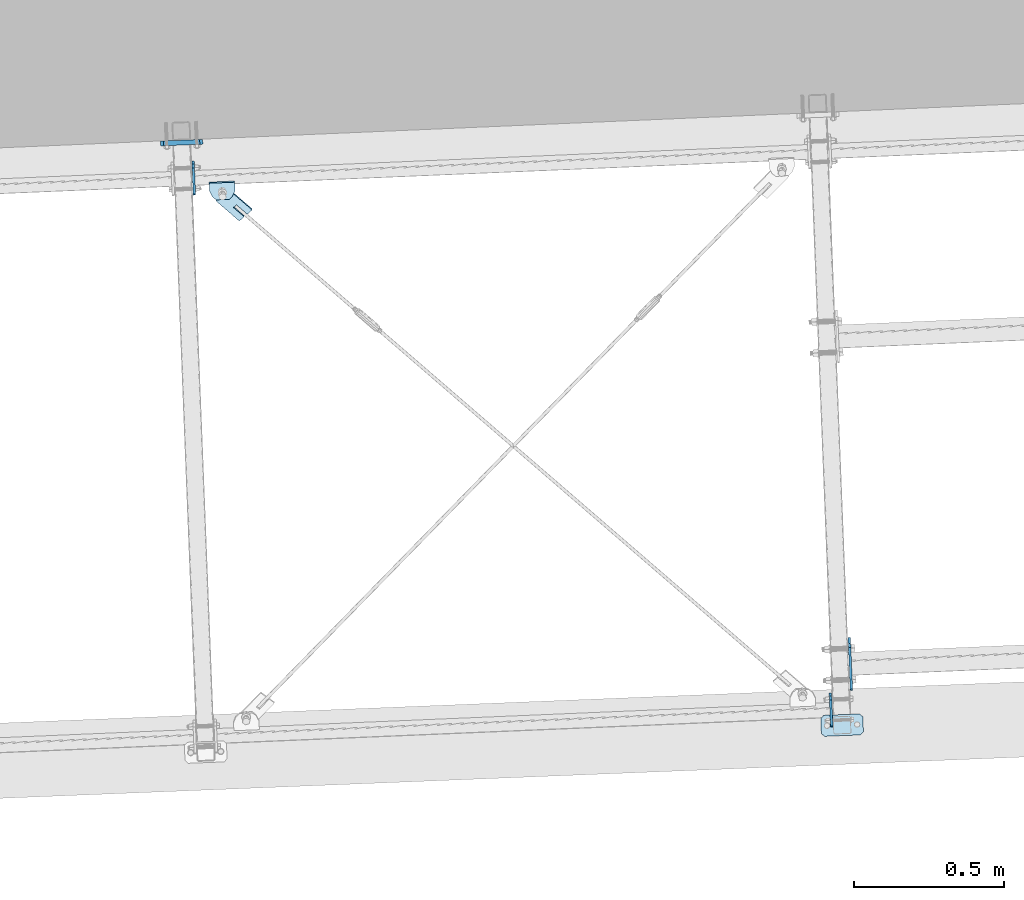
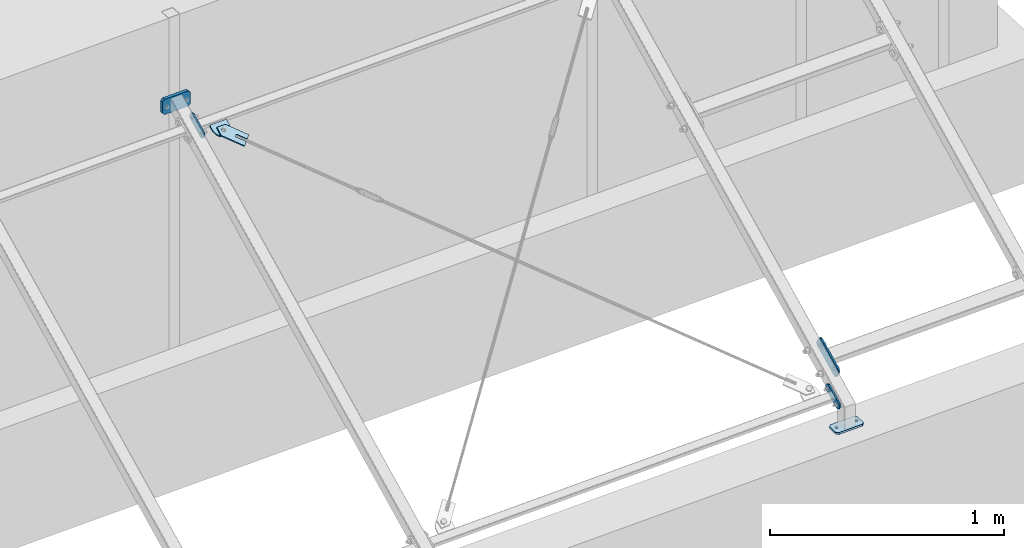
# One storey, part 64 of 288: 7 plates, 40 openings.
"""IFC2X3 building model written with IfcOpenShell, lengths in millimetres."""

from ifc_helpers import new_model, entity, si_unit, converted_unit, point, frame, frame_2d, origin, origin_with_axes, origin_2d_with_axis, place, context, project, spatial, polyline, circle_curve, line_curve, trimmed, segment, composite_curve, circle, outline, extrude, material, layer, layer_set, element, save


model = new_model("IFC2X3")

# Units and contexts
model_context = context("Model", 3, precision=1e-09, world=origin_with_axes())
ifc_project = project(units=[si_unit("LENGTHUNIT", "METRE", prefix="MILLI"), si_unit("AREAUNIT", "SQUARE_METRE"), si_unit("VOLUMEUNIT", "CUBIC_METRE"), converted_unit("PLANEANGLEUNIT", "DEGREE", entity("IfcPlaneAngleMeasure", 0.01745329), si_unit("PLANEANGLEUNIT", "RADIAN"), dimensions=[0, 0, 0, 0, 0, 0, 0])], contexts=[model_context])

# Site, building, storey
site_placement = place(None, origin_with_axes())
site = spatial("IfcSite", under=ifc_project, at=site_placement, Name="Remont ?wietlik?w nad MC w NCPP w Opolu", CompositionType="ELEMENT")
building_placement = place(site_placement, origin_with_axes())
building = spatial("IfcBuilding", under=site, at=building_placement, Name="Konstrukcja 1", CompositionType="ELEMENT")
storey_placement = place(building_placement, origin_with_axes())
storey = spatial("IfcBuildingStorey", under=building, at=storey_placement, Name="Default Storey", CompositionType="ELEMENT", Elevation=0.0)

# Plate, openings
ifc_material = material(Name="S235")
ifc_layer_1 = layer(ifc_material, 8.0)
ifc_layer_set_1 = layer_set([ifc_layer_1], Name="S235")
plate_1_placement = place(None, frame((8745.083732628, 13898.774885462, 91.514813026), z_axis=(-0.999102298, -0.042361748, 0.000284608), x_axis=(0.021561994, -0.502733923, 0.864172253)))
plate_1 = element("IfcPlate", 1, at=plate_1_placement, inside=storey, material=ifc_layer_set_1, Name="-", ObjectType="-", context=model_context, shape_type="SweptSolid", body=[
    extrude(outline(polyline([(0.0, 0.0), (40.0, 0.0), (40.0, 120.0), (0.0, 120.0), (0.0, 0.0)])), origin_with_axes(), (0.0, 0.0, 1.0), 8.0),
])
opening_1_placement = place(plate_1_placement, frame((12.999, 100.0, 8.5), z_axis=(0.0, 0.0, 1.0), x_axis=(1.0, 0.0, 0.0)))
element("IfcOpeningElement", 2, at=opening_1_placement, cuts=plate_1, ObjectType="Opening", context=model_context, shape_type="SweptSolid", body=[
    extrude(circle(Radius=7.001, at=frame_2d((7.001, 0.0), x_axis=(1.0, 0.0))), origin(), (0.0, 0.0, -1.0), 9.0),
])
opening_2_placement = place(plate_1_placement, frame((12.999, 20.0, 8.5), z_axis=(0.0, 0.0, 1.0), x_axis=(1.0, 0.0, 0.0)))
element("IfcOpeningElement", 3, at=opening_2_placement, cuts=plate_1, ObjectType="Opening", context=model_context, shape_type="SweptSolid", body=[
    extrude(circle(Radius=7.001, at=frame_2d((7.001, 0.0), x_axis=(1.0, 0.0))), origin(), (0.0, 0.0, -1.0), 9.0),
])
opening_3_placement = place(plate_1_placement, frame((0.0, 0.0, -0.01), z_axis=(0.0, 0.0, 1.0), x_axis=(1.0, 0.0, 0.0)))
element("IfcOpeningElement", 4, at=opening_3_placement, cuts=plate_1, ObjectType="Opening", context=model_context, shape_type="SweptSolid", body=[
    extrude(outline(composite_curve([segment(trimmed(line_curve((40.0, 0.0), (0.0, 1.0), 10.0), [point((40.0, 0.0))], [point((40.0, 10.0))], True, "CARTESIAN"), True, "CONTINUOUS"), segment(trimmed(circle_curve(frame_2d((30.0, 10.0), x_axis=(-1.0, 0.0)), 10.0), [point((40.0, 10.0))], [point((30.0, 0.0))], False, "CARTESIAN"), True, "CONTINUOUS"), segment(trimmed(line_curve((30.0, 0.0), (1.0, 0.0), 10.0), [point((30.0, 0.0))], [point((40.0, 0.0))], True, "CARTESIAN"), True, "CONTINUOUS")], self_intersect=False)), origin(), (0.0, 0.0, 1.0), 8.02),
])
opening_4_placement = place(plate_1_placement, frame((0.0, 0.0, -0.01), z_axis=(0.0, 0.0, 1.0), x_axis=(1.0, 0.0, 0.0)))
element("IfcOpeningElement", 5, at=opening_4_placement, cuts=plate_1, ObjectType="Opening", context=model_context, shape_type="SweptSolid", body=[
    extrude(outline(composite_curve([segment(trimmed(line_curve((0.0, 0.0), (1.0, 0.0), 10.0), [point((0.0, 0.0))], [point((10.0, 0.0))], True, "CARTESIAN"), True, "CONTINUOUS"), segment(trimmed(circle_curve(frame_2d((10.0, 10.0), x_axis=(-1.0, 0.0)), 10.0), [point((10.0, 0.0))], [point((0.0, 10.0))], False, "CARTESIAN"), True, "CONTINUOUS"), segment(trimmed(line_curve((0.0, 10.0), (0.0, -1.0), 10.0), [point((0.0, 10.0))], [point((0.0, 0.0))], True, "CARTESIAN"), True, "CONTINUOUS")], self_intersect=False)), origin(), (0.0, 0.0, 1.0), 8.02),
])
opening_5_placement = place(plate_1_placement, frame((0.0, 0.0, -0.01), z_axis=(0.0, 0.0, 1.0), x_axis=(1.0, 0.0, 0.0)))
element("IfcOpeningElement", 6, at=opening_5_placement, cuts=plate_1, ObjectType="Opening", context=model_context, shape_type="SweptSolid", body=[
    extrude(outline(composite_curve([segment(trimmed(line_curve((40.0, 120.0), (-1.0, 0.0), 10.0), [point((40.0, 120.0))], [point((30.0, 120.0))], True, "CARTESIAN"), True, "CONTINUOUS"), segment(trimmed(circle_curve(frame_2d((30.0, 110.0), x_axis=(-1.0, 0.0)), 10.0), [point((30.0, 120.0))], [point((40.0, 110.0))], False, "CARTESIAN"), True, "CONTINUOUS"), segment(trimmed(line_curve((40.0, 110.0), (0.0, 1.0), 10.0), [point((40.0, 110.0))], [point((40.0, 120.0))], True, "CARTESIAN"), True, "CONTINUOUS")], self_intersect=False)), origin(), (0.0, 0.0, 1.0), 8.02),
])
opening_6_placement = place(plate_1_placement, frame((0.0, 0.0, -0.01), z_axis=(0.0, 0.0, 1.0), x_axis=(1.0, 0.0, 0.0)))
element("IfcOpeningElement", 7, at=opening_6_placement, cuts=plate_1, ObjectType="Opening", context=model_context, shape_type="SweptSolid", body=[
    extrude(outline(composite_curve([segment(trimmed(line_curve((0.0, 120.0), (0.0, -1.0), 10.0), [point((0.0, 120.0))], [point((0.0, 110.0))], True, "CARTESIAN"), True, "CONTINUOUS"), segment(trimmed(circle_curve(frame_2d((10.0, 110.0), x_axis=(-1.0, 0.0)), 10.0), [point((0.0, 110.0))], [point((10.0, 120.0))], False, "CARTESIAN"), True, "CONTINUOUS"), segment(trimmed(line_curve((10.0, 120.0), (-1.0, 0.0), 10.0), [point((10.0, 120.0))], [point((0.0, 120.0))], True, "CARTESIAN"), True, "CONTINUOUS")], self_intersect=False)), origin(), (0.0, 0.0, 1.0), 8.02),
])
opening_7_placement = place(plate_1_placement, frame((12.999, 100.0, 8.5), z_axis=(0.0, 0.0, 1.0), x_axis=(1.0, 0.0, 0.0)))
element("IfcOpeningElement", 8, at=opening_7_placement, cuts=plate_1, ObjectType="Opening", context=model_context, shape_type="SweptSolid", body=[
    extrude(circle(Radius=7.001, at=frame_2d((7.001, 0.0), x_axis=(1.0, 0.0))), origin(), (0.0, 0.0, -1.0), 9.0),
])
opening_8_placement = place(plate_1_placement, frame((12.999, 20.0, 8.5), z_axis=(0.0, 0.0, 1.0), x_axis=(1.0, 0.0, 0.0)))
element("IfcOpeningElement", 9, at=opening_8_placement, cuts=plate_1, ObjectType="Opening", context=model_context, shape_type="SweptSolid", body=[
    extrude(circle(Radius=7.001, at=frame_2d((7.001, 0.0), x_axis=(1.0, 0.0))), origin(), (0.0, 0.0, -1.0), 9.0),
])

plate_2_placement = place(None, frame((8810.055329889, 14031.171699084, 157.587113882), z_axis=(-0.999102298, -0.042361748, 0.000284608), x_axis=(0.021561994, -0.502733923, 0.864172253)))
plate_2 = element("IfcPlate", 10, at=plate_2_placement, inside=storey, material=ifc_layer_set_1, Name="-", ObjectType="-", context=model_context, shape_type="SweptSolid", body=[
    extrude(outline(polyline([(0.0, 0.0), (60.0, 0.0), (60.0, 180.0), (0.0, 180.0), (0.0, 0.0)])), origin_with_axes(), (0.0, 0.0, 1.0), 8.0),
])
opening_9_placement = place(plate_2_placement, frame((0.0, 0.0, -0.01), z_axis=(0.0, 0.0, 1.0), x_axis=(1.0, 0.0, 0.0)))
element("IfcOpeningElement", 11, at=opening_9_placement, cuts=plate_2, ObjectType="Opening", context=model_context, shape_type="SweptSolid", body=[
    extrude(outline(composite_curve([segment(trimmed(line_curve((60.0, 0.0), (0.0, 1.0), 10.0), [point((60.0, 0.0))], [point((60.0, 10.0))], True, "CARTESIAN"), True, "CONTINUOUS"), segment(trimmed(circle_curve(frame_2d((50.0, 10.0), x_axis=(-1.0, 0.0)), 10.0), [point((60.0, 10.0))], [point((50.0, 0.0))], False, "CARTESIAN"), True, "CONTINUOUS"), segment(trimmed(line_curve((50.0, 0.0), (1.0, 0.0), 10.0), [point((50.0, 0.0))], [point((60.0, 0.0))], True, "CARTESIAN"), True, "CONTINUOUS")], self_intersect=False)), origin(), (0.0, 0.0, 1.0), 8.02),
])
opening_10_placement = place(plate_2_placement, frame((0.0, 0.0, -0.01), z_axis=(0.0, 0.0, 1.0), x_axis=(1.0, 0.0, 0.0)))
element("IfcOpeningElement", 12, at=opening_10_placement, cuts=plate_2, ObjectType="Opening", context=model_context, shape_type="SweptSolid", body=[
    extrude(outline(composite_curve([segment(trimmed(line_curve((0.0, 0.0), (1.0, 0.0), 10.0), [point((0.0, 0.0))], [point((10.0, 0.0))], True, "CARTESIAN"), True, "CONTINUOUS"), segment(trimmed(circle_curve(frame_2d((10.0, 10.0), x_axis=(-1.0, 0.0)), 10.0), [point((10.0, 0.0))], [point((0.0, 10.0))], False, "CARTESIAN"), True, "CONTINUOUS"), segment(trimmed(line_curve((0.0, 10.0), (0.0, -1.0), 10.0), [point((0.0, 10.0))], [point((0.0, 0.0))], True, "CARTESIAN"), True, "CONTINUOUS")], self_intersect=False)), origin(), (0.0, 0.0, 1.0), 8.02),
])
opening_11_placement = place(plate_2_placement, frame((0.0, 0.0, -0.01), z_axis=(0.0, 0.0, 1.0), x_axis=(1.0, 0.0, 0.0)))
element("IfcOpeningElement", 13, at=opening_11_placement, cuts=plate_2, ObjectType="Opening", context=model_context, shape_type="SweptSolid", body=[
    extrude(outline(composite_curve([segment(trimmed(line_curve((60.0, 180.0), (-1.0, 0.0), 10.0), [point((60.0, 180.0))], [point((50.0, 180.0))], True, "CARTESIAN"), True, "CONTINUOUS"), segment(trimmed(circle_curve(frame_2d((50.0, 170.0), x_axis=(-1.0, 0.0)), 10.0), [point((50.0, 180.0))], [point((60.0, 170.0))], False, "CARTESIAN"), True, "CONTINUOUS"), segment(trimmed(line_curve((60.0, 170.0), (0.0, 1.0), 10.0), [point((60.0, 170.0))], [point((60.0, 180.0))], True, "CARTESIAN"), True, "CONTINUOUS")], self_intersect=False)), origin(), (0.0, 0.0, 1.0), 8.02),
])
opening_12_placement = place(plate_2_placement, frame((0.0, 0.0, -0.01), z_axis=(0.0, 0.0, 1.0), x_axis=(1.0, 0.0, 0.0)))
element("IfcOpeningElement", 14, at=opening_12_placement, cuts=plate_2, ObjectType="Opening", context=model_context, shape_type="SweptSolid", body=[
    extrude(outline(composite_curve([segment(trimmed(line_curve((0.0, 180.0), (0.0, -1.0), 10.0), [point((0.0, 180.0))], [point((0.0, 170.0))], True, "CARTESIAN"), True, "CONTINUOUS"), segment(trimmed(circle_curve(frame_2d((10.0, 170.0), x_axis=(-1.0, 0.0)), 10.0), [point((0.0, 170.0))], [point((10.0, 180.0))], False, "CARTESIAN"), True, "CONTINUOUS"), segment(trimmed(line_curve((10.0, 180.0), (-1.0, 0.0), 10.0), [point((10.0, 180.0))], [point((0.0, 180.0))], True, "CARTESIAN"), True, "CONTINUOUS")], self_intersect=False)), origin(), (0.0, 0.0, 1.0), 8.02),
])
opening_13_placement = place(plate_2_placement, frame((20.999, 150.0, 8.5), z_axis=(0.0, 0.0, 1.0), x_axis=(1.0, 0.0, 0.0)))
element("IfcOpeningElement", 15, at=opening_13_placement, cuts=plate_2, ObjectType="Opening", context=model_context, shape_type="SweptSolid", body=[
    extrude(circle(Radius=9.001, at=frame_2d((9.001, 0.0), x_axis=(1.0, 0.0))), origin(), (0.0, 0.0, -1.0), 9.0),
])
opening_14_placement = place(plate_2_placement, frame((20.999, 30.0, 8.5), z_axis=(0.0, 0.0, 1.0), x_axis=(1.0, 0.0, 0.0)))
element("IfcOpeningElement", 16, at=opening_14_placement, cuts=plate_2, ObjectType="Opening", context=model_context, shape_type="SweptSolid", body=[
    extrude(circle(Radius=9.001, at=frame_2d((9.001, 0.0), x_axis=(1.0, 0.0))), origin(), (0.0, 0.0, -1.0), 9.0),
])

ifc_layer_2 = layer(ifc_material, 10.0)
ifc_layer_set_2 = layer_set([ifc_layer_2], Name="S235")
plate_3_placement = place(None, frame((8844.548128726, 13927.889466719, 10.000000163), z_axis=(0.0, 0.0, -1.0), x_axis=(0.039392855, -0.9992238, 0.0)))
plate_3 = element("IfcPlate", 17, at=plate_3_placement, inside=storey, material=ifc_layer_set_2, Name="Baseplate", ObjectType="Baseplate", context=model_context, shape_type="SweptSolid", body=[
    extrude(outline(polyline([(0.0, 0.0), (70.0, 0.0), (70.0, 140.0), (0.0, 140.0), (0.0, 0.0)])), origin_with_axes(), (0.0, 0.0, 1.0), 10.0),
])
opening_15_placement = place(plate_3_placement, frame((0.0, 0.0, -0.01), z_axis=(0.0, 0.0, 1.0), x_axis=(1.0, 0.0, 0.0)))
element("IfcOpeningElement", 18, at=opening_15_placement, cuts=plate_3, ObjectType="Opening", context=model_context, shape_type="SweptSolid", body=[
    extrude(outline(composite_curve([segment(trimmed(line_curve((0.0, 140.0), (0.0, -1.0), 10.0), [point((0.0, 140.0))], [point((0.0, 130.0))], True, "CARTESIAN"), True, "CONTINUOUS"), segment(trimmed(circle_curve(frame_2d((10.0, 130.0), x_axis=(-1.0, 0.0)), 10.0), [point((0.0, 130.0))], [point((10.0, 140.0))], False, "CARTESIAN"), True, "CONTINUOUS"), segment(trimmed(line_curve((10.0, 140.0), (-1.0, 0.0), 10.0), [point((10.0, 140.0))], [point((0.0, 140.0))], True, "CARTESIAN"), True, "CONTINUOUS")], self_intersect=False)), origin(), (0.0, 0.0, 1.0), 10.02),
])
opening_16_placement = place(plate_3_placement, frame((0.0, 0.0, -0.01), z_axis=(0.0, 0.0, 1.0), x_axis=(1.0, 0.0, 0.0)))
element("IfcOpeningElement", 19, at=opening_16_placement, cuts=plate_3, ObjectType="Opening", context=model_context, shape_type="SweptSolid", body=[
    extrude(outline(composite_curve([segment(trimmed(line_curve((70.0, 140.0), (-1.0, 0.0), 10.0), [point((70.0, 140.0))], [point((60.0, 140.0))], True, "CARTESIAN"), True, "CONTINUOUS"), segment(trimmed(circle_curve(frame_2d((60.0, 130.0), x_axis=(-1.0, 0.0)), 10.0), [point((60.0, 140.0))], [point((70.0, 130.0))], False, "CARTESIAN"), True, "CONTINUOUS"), segment(trimmed(line_curve((70.0, 130.0), (0.0, 1.0), 10.0), [point((70.0, 130.0))], [point((70.0, 140.0))], True, "CARTESIAN"), True, "CONTINUOUS")], self_intersect=False)), origin(), (0.0, 0.0, 1.0), 10.02),
])
opening_17_placement = place(plate_3_placement, frame((0.0, 0.0, -0.01), z_axis=(0.0, 0.0, 1.0), x_axis=(1.0, 0.0, 0.0)))
element("IfcOpeningElement", 20, at=opening_17_placement, cuts=plate_3, ObjectType="Opening", context=model_context, shape_type="SweptSolid", body=[
    extrude(outline(composite_curve([segment(trimmed(line_curve((0.0, 0.0), (1.0, 0.0), 10.0), [point((0.0, 0.0))], [point((10.0, 0.0))], True, "CARTESIAN"), True, "CONTINUOUS"), segment(trimmed(circle_curve(frame_2d((10.0, 10.0), x_axis=(-1.0, 0.0)), 10.0), [point((10.0, 0.0))], [point((0.0, 10.0))], False, "CARTESIAN"), True, "CONTINUOUS"), segment(trimmed(line_curve((0.0, 10.0), (0.0, -1.0), 10.0), [point((0.0, 10.0))], [point((0.0, 0.0))], True, "CARTESIAN"), True, "CONTINUOUS")], self_intersect=False)), origin(), (0.0, 0.0, 1.0), 10.02),
])
opening_18_placement = place(plate_3_placement, frame((0.0, 0.0, -0.01), z_axis=(0.0, 0.0, 1.0), x_axis=(1.0, 0.0, 0.0)))
element("IfcOpeningElement", 21, at=opening_18_placement, cuts=plate_3, ObjectType="Opening", context=model_context, shape_type="SweptSolid", body=[
    extrude(outline(composite_curve([segment(trimmed(line_curve((70.0, 0.0), (0.0, 1.0), 10.0), [point((70.0, 0.0))], [point((70.0, 10.0))], True, "CARTESIAN"), True, "CONTINUOUS"), segment(trimmed(circle_curve(frame_2d((60.0, 10.0), x_axis=(-1.0, 0.0)), 10.0), [point((70.0, 10.0))], [point((60.0, 0.0))], False, "CARTESIAN"), True, "CONTINUOUS"), segment(trimmed(line_curve((60.0, 0.0), (1.0, 0.0), 10.0), [point((60.0, 0.0))], [point((70.0, 0.0))], True, "CARTESIAN"), True, "CONTINUOUS")], self_intersect=False)), origin(), (0.0, 0.0, 1.0), 10.02),
])
opening_19_placement = place(plate_3_placement, frame((35.0, 20.0, 10.5), z_axis=(0.0, 0.0, -1.0), x_axis=(1.0, 0.0, 0.0)))
element("IfcOpeningElement", 22, at=opening_19_placement, cuts=plate_3, ObjectType="Opening", context=model_context, shape_type="SweptSolid", body=[
    extrude(circle(Radius=6.001, at=origin_2d_with_axis()), origin(), (0.0, 0.0, 1.0), 11.0),
])
opening_20_placement = place(plate_3_placement, frame((35.0, 120.0, 10.5), z_axis=(0.0, 0.0, -1.0), x_axis=(1.0, 0.0, 0.0)))
element("IfcOpeningElement", 23, at=opening_20_placement, cuts=plate_3, ObjectType="Opening", context=model_context, shape_type="SweptSolid", body=[
    extrude(circle(Radius=6.001, at=origin_2d_with_axis()), origin(), (0.0, 0.0, 1.0), 11.0),
])

ifc_layer_3 = layer(ifc_material, 16.0)
ifc_layer_set_3 = layer_set([ifc_layer_3], Name="S235")
plate_4_placement = place(None, frame((6650.941316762, 15821.28120996, 1327.349044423), z_axis=(-0.039393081, 0.999223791, 0.0), x_axis=(0.0, 0.0, -1.0)))
plate_4 = element("IfcPlate", 24, at=plate_4_placement, inside=storey, material=ifc_layer_set_3, Name="Baseplate", ObjectType="Baseplate", context=model_context, shape_type="SweptSolid", body=[
    extrude(outline(polyline([(0.0, 0.0), (79.459770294, 0.0), (79.459770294, 140.0), (0.0, 140.0), (0.0, 0.0)])), origin_with_axes(), (0.0, 0.0, 1.0), 16.0),
])
opening_21_placement = place(plate_4_placement, frame((0.0, 0.0, -0.01), z_axis=(0.0, 0.0, 1.0), x_axis=(1.0, 0.0, 0.0)))
element("IfcOpeningElement", 25, at=opening_21_placement, cuts=plate_4, ObjectType="Opening", context=model_context, shape_type="SweptSolid", body=[
    extrude(outline(composite_curve([segment(trimmed(line_curve((0.0, 140.0), (0.0, -1.0), 10.0), [point((0.0, 140.0))], [point((0.0, 130.0))], True, "CARTESIAN"), True, "CONTINUOUS"), segment(trimmed(circle_curve(frame_2d((10.0, 130.0), x_axis=(-1.0, 0.0)), 10.0), [point((0.0, 130.0))], [point((10.0, 140.0))], False, "CARTESIAN"), True, "CONTINUOUS"), segment(trimmed(line_curve((10.0, 140.0), (-1.0, 0.0), 10.0), [point((10.0, 140.0))], [point((0.0, 140.0))], True, "CARTESIAN"), True, "CONTINUOUS")], self_intersect=False)), origin(), (0.0, 0.0, 1.0), 16.02),
])
opening_22_placement = place(plate_4_placement, frame((0.0, 0.0, -0.01), z_axis=(0.0, 0.0, 1.0), x_axis=(1.0, 0.0, 0.0)))
element("IfcOpeningElement", 26, at=opening_22_placement, cuts=plate_4, ObjectType="Opening", context=model_context, shape_type="SweptSolid", body=[
    extrude(outline(composite_curve([segment(trimmed(line_curve((79.459770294, 140.0), (-1.0, 0.0), 10.0), [point((79.459770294, 140.0))], [point((69.459770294, 140.0))], True, "CARTESIAN"), True, "CONTINUOUS"), segment(trimmed(circle_curve(frame_2d((69.459770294, 130.0), x_axis=(-1.0, 0.0)), 10.0), [point((69.459770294, 140.0))], [point((79.459770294, 130.0))], False, "CARTESIAN"), True, "CONTINUOUS"), segment(trimmed(line_curve((79.459770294, 130.0), (0.0, 1.0), 10.0), [point((79.459770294, 130.0))], [point((79.459770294, 140.0))], True, "CARTESIAN"), True, "CONTINUOUS")], self_intersect=False)), origin(), (0.0, 0.0, 1.0), 16.02),
])
opening_23_placement = place(plate_4_placement, frame((0.0, 0.0, -0.01), z_axis=(0.0, 0.0, 1.0), x_axis=(1.0, 0.0, 0.0)))
element("IfcOpeningElement", 27, at=opening_23_placement, cuts=plate_4, ObjectType="Opening", context=model_context, shape_type="SweptSolid", body=[
    extrude(outline(composite_curve([segment(trimmed(line_curve((0.0, 0.0), (1.0, 0.0), 10.0), [point((0.0, 0.0))], [point((10.0, 0.0))], True, "CARTESIAN"), True, "CONTINUOUS"), segment(trimmed(circle_curve(frame_2d((10.0, 10.0), x_axis=(-1.0, 0.0)), 10.0), [point((10.0, 0.0))], [point((0.0, 10.0))], False, "CARTESIAN"), True, "CONTINUOUS"), segment(trimmed(line_curve((0.0, 10.0), (0.0, -1.0), 10.0), [point((0.0, 10.0))], [point((0.0, 0.0))], True, "CARTESIAN"), True, "CONTINUOUS")], self_intersect=False)), origin(), (0.0, 0.0, 1.0), 16.02),
])
opening_24_placement = place(plate_4_placement, frame((0.0, 0.0, -0.01), z_axis=(0.0, 0.0, 1.0), x_axis=(1.0, 0.0, 0.0)))
element("IfcOpeningElement", 28, at=opening_24_placement, cuts=plate_4, ObjectType="Opening", context=model_context, shape_type="SweptSolid", body=[
    extrude(outline(composite_curve([segment(trimmed(line_curve((79.459770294, 0.0), (0.0, 1.0), 10.0), [point((79.459770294, 0.0))], [point((79.459770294, 10.0))], True, "CARTESIAN"), True, "CONTINUOUS"), segment(trimmed(circle_curve(frame_2d((69.459770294, 10.0), x_axis=(-1.0, 0.0)), 10.0), [point((79.459770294, 10.0))], [point((69.459770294, 0.0))], False, "CARTESIAN"), True, "CONTINUOUS"), segment(trimmed(line_curve((69.459770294, 0.0), (1.0, 0.0), 10.0), [point((69.459770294, 0.0))], [point((79.459770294, 0.0))], True, "CARTESIAN"), True, "CONTINUOUS")], self_intersect=False)), origin(), (0.0, 0.0, 1.0), 16.02),
])
opening_25_placement = place(plate_4_placement, frame((39.729885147, 120.0, 16.5), z_axis=(0.0, 0.0, -1.0), x_axis=(1.0, 0.0, 0.0)))
element("IfcOpeningElement", 29, at=opening_25_placement, cuts=plate_4, ObjectType="Opening", context=model_context, shape_type="SweptSolid", body=[
    extrude(circle(Radius=6.001, at=origin_2d_with_axis()), origin(), (0.0, 0.0, 1.0), 17.0),
])
opening_26_placement = place(plate_4_placement, frame((39.729885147, 20.0, 16.5), z_axis=(0.0, 0.0, -1.0), x_axis=(1.0, 0.0, 0.0)))
element("IfcOpeningElement", 30, at=opening_26_placement, cuts=plate_4, ObjectType="Opening", context=model_context, shape_type="SweptSolid", body=[
    extrude(circle(Radius=6.001, at=origin_2d_with_axis()), origin(), (0.0, 0.0, 1.0), 17.0),
])

plate_5_placement = place(None, frame((6626.477921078, 15666.902658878, 1175.234769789), z_axis=(-0.999102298, -0.042361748, 0.000284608), x_axis=(0.021561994, -0.502733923, 0.864172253)))
plate_5 = element("IfcPlate", 31, at=plate_5_placement, inside=storey, material=ifc_layer_set_1, Name="-", ObjectType="-", context=model_context, shape_type="SweptSolid", body=[
    extrude(outline(polyline([(0.0, 0.0), (40.0, 0.0), (40.0, 120.0), (0.0, 120.0), (0.0, 0.0)])), origin_with_axes(), (0.0, 0.0, 1.0), 8.0),
])
opening_27_placement = place(plate_5_placement, frame((0.0, 0.0, -0.01), z_axis=(0.0, 0.0, 1.0), x_axis=(1.0, 0.0, 0.0)))
element("IfcOpeningElement", 32, at=opening_27_placement, cuts=plate_5, ObjectType="Opening", context=model_context, shape_type="SweptSolid", body=[
    extrude(outline(composite_curve([segment(trimmed(line_curve((0.0, 0.0), (1.0, 0.0), 10.0), [point((0.0, 0.0))], [point((10.0, 0.0))], True, "CARTESIAN"), True, "CONTINUOUS"), segment(trimmed(circle_curve(frame_2d((10.0, 10.0), x_axis=(-1.0, 0.0)), 10.0), [point((10.0, 0.0))], [point((0.0, 10.0))], False, "CARTESIAN"), True, "CONTINUOUS"), segment(trimmed(line_curve((0.0, 10.0), (0.0, -1.0), 10.0), [point((0.0, 10.0))], [point((0.0, 0.0))], True, "CARTESIAN"), True, "CONTINUOUS")], self_intersect=False)), origin(), (0.0, 0.0, 1.0), 8.02),
])
opening_28_placement = place(plate_5_placement, frame((0.0, 0.0, -0.01), z_axis=(0.0, 0.0, 1.0), x_axis=(1.0, 0.0, 0.0)))
element("IfcOpeningElement", 33, at=opening_28_placement, cuts=plate_5, ObjectType="Opening", context=model_context, shape_type="SweptSolid", body=[
    extrude(outline(composite_curve([segment(trimmed(line_curve((40.0, 0.0), (0.0, 1.0), 10.0), [point((40.0, 0.0))], [point((40.0, 10.0))], True, "CARTESIAN"), True, "CONTINUOUS"), segment(trimmed(circle_curve(frame_2d((30.0, 10.0), x_axis=(-1.0, 0.0)), 10.0), [point((40.0, 10.0))], [point((30.0, 0.0))], False, "CARTESIAN"), True, "CONTINUOUS"), segment(trimmed(line_curve((30.0, 0.0), (1.0, 0.0), 10.0), [point((30.0, 0.0))], [point((40.0, 0.0))], True, "CARTESIAN"), True, "CONTINUOUS")], self_intersect=False)), origin(), (0.0, 0.0, 1.0), 8.02),
])
opening_29_placement = place(plate_5_placement, frame((0.0, 0.0, -0.01), z_axis=(0.0, 0.0, 1.0), x_axis=(1.0, 0.0, 0.0)))
element("IfcOpeningElement", 34, at=opening_29_placement, cuts=plate_5, ObjectType="Opening", context=model_context, shape_type="SweptSolid", body=[
    extrude(outline(composite_curve([segment(trimmed(line_curve((40.0, 120.0), (-1.0, 0.0), 10.0), [point((40.0, 120.0))], [point((30.0, 120.0))], True, "CARTESIAN"), True, "CONTINUOUS"), segment(trimmed(circle_curve(frame_2d((30.0, 110.0), x_axis=(-1.0, 0.0)), 10.0), [point((30.0, 120.0))], [point((40.0, 110.0))], False, "CARTESIAN"), True, "CONTINUOUS"), segment(trimmed(line_curve((40.0, 110.0), (0.0, 1.0), 10.0), [point((40.0, 110.0))], [point((40.0, 120.0))], True, "CARTESIAN"), True, "CONTINUOUS")], self_intersect=False)), origin(), (0.0, 0.0, 1.0), 8.02),
])
opening_30_placement = place(plate_5_placement, frame((0.0, 0.0, -0.01), z_axis=(0.0, 0.0, 1.0), x_axis=(1.0, 0.0, 0.0)))
element("IfcOpeningElement", 35, at=opening_30_placement, cuts=plate_5, ObjectType="Opening", context=model_context, shape_type="SweptSolid", body=[
    extrude(outline(composite_curve([segment(trimmed(line_curve((0.0, 120.0), (0.0, -1.0), 10.0), [point((0.0, 120.0))], [point((0.0, 110.0))], True, "CARTESIAN"), True, "CONTINUOUS"), segment(trimmed(circle_curve(frame_2d((10.0, 110.0), x_axis=(-1.0, 0.0)), 10.0), [point((0.0, 110.0))], [point((10.0, 120.0))], False, "CARTESIAN"), True, "CONTINUOUS"), segment(trimmed(line_curve((10.0, 120.0), (-1.0, 0.0), 10.0), [point((10.0, 120.0))], [point((0.0, 120.0))], True, "CARTESIAN"), True, "CONTINUOUS")], self_intersect=False)), origin(), (0.0, 0.0, 1.0), 8.02),
])
opening_31_placement = place(plate_5_placement, frame((20.0, 60.0, -0.5), z_axis=(0.0, 0.0, 1.0), x_axis=(1.0, 0.0, 0.0)))
element("IfcOpeningElement", 36, at=opening_31_placement, cuts=plate_5, ObjectType="Opening", context=model_context, shape_type="SweptSolid", body=[
    extrude(circle(Radius=7.001, at=frame_2d((0.0, 40.0), x_axis=(1.0, 0.0))), origin(), (0.0, 0.0, 1.0), 9.0),
])
opening_32_placement = place(plate_5_placement, frame((20.0, 60.0, -0.5), z_axis=(0.0, 0.0, 1.0), x_axis=(1.0, 0.0, 0.0)))
element("IfcOpeningElement", 37, at=opening_32_placement, cuts=plate_5, ObjectType="Opening", context=model_context, shape_type="SweptSolid", body=[
    extrude(circle(Radius=7.001, at=frame_2d((0.0, -40.0), x_axis=(1.0, 0.0))), origin(), (0.0, 0.0, 1.0), 9.0),
])

plate_6_placement = place(None, frame((6771.989362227, 15569.816718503, 1142.723410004), z_axis=(0.021594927, -0.503513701, 0.863717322), x_axis=(0.711151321, 0.614959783, 0.340717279)))
plate_6 = element("IfcPlate", 38, at=plate_6_placement, inside=storey, material=ifc_layer_set_1, Name="Tab_Plate#1", ObjectType="Tab_Plate#1", context=model_context, shape_type="SweptSolid", body=[
    extrude(outline(polyline([(0.0, 0.0), (60.0, 0.0), (60.0, 140.0), (0.0, 140.0), (0.0, 0.0)])), origin_with_axes(), (0.0, 0.0, 1.0), 8.0),
])
opening_33_placement = place(plate_6_placement, frame((0.0, 0.0, -0.01), z_axis=(0.0, 0.0, 1.0), x_axis=(1.0, 0.0, 0.0)))
element("IfcOpeningElement", 39, at=opening_33_placement, cuts=plate_6, ObjectType="Opening", context=model_context, shape_type="SweptSolid", body=[
    extrude(outline(composite_curve([segment(trimmed(line_curve((60.0, 140.0), (-1.0, 0.0), 30.0), [point((60.0, 140.0))], [point((30.0, 140.0))], True, "CARTESIAN"), True, "CONTINUOUS"), segment(trimmed(circle_curve(frame_2d((30.0, 110.0), x_axis=(-1.0, 0.0)), 30.0), [point((30.0, 140.0))], [point((60.0, 110.0))], False, "CARTESIAN"), True, "CONTINUOUS"), segment(trimmed(line_curve((60.0, 110.0), (0.0, 1.0), 30.0), [point((60.0, 110.0))], [point((60.0, 140.0))], True, "CARTESIAN"), True, "CONTINUOUS")], self_intersect=False)), origin(), (0.0, 0.0, 1.0), 8.02),
])
opening_34_placement = place(plate_6_placement, frame((0.0, 0.0, -0.01), z_axis=(0.0, 0.0, 1.0), x_axis=(1.0, 0.0, 0.0)))
element("IfcOpeningElement", 40, at=opening_34_placement, cuts=plate_6, ObjectType="Opening", context=model_context, shape_type="SweptSolid", body=[
    extrude(outline(composite_curve([segment(trimmed(line_curve((0.0, 140.0), (0.0, -1.0), 30.0), [point((0.0, 140.0))], [point((0.0, 110.0))], True, "CARTESIAN"), True, "CONTINUOUS"), segment(trimmed(circle_curve(frame_2d((30.0, 110.0), x_axis=(-1.0, 0.0)), 30.0), [point((0.0, 110.0))], [point((30.0, 140.0))], False, "CARTESIAN"), True, "CONTINUOUS"), segment(trimmed(line_curve((30.0, 140.0), (-1.0, 0.0), 30.0), [point((30.0, 140.0))], [point((0.0, 140.0))], True, "CARTESIAN"), True, "CONTINUOUS")], self_intersect=False)), origin(), (0.0, 0.0, 1.0), 8.02),
])
opening_35_placement = place(plate_6_placement, frame((0.0, 0.0, 8.1), z_axis=(0.0, 0.0, -1.0), x_axis=(-0.736848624, 0.676057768, 0.0)))
element("IfcOpeningElement", 41, at=opening_35_placement, cuts=plate_6, ObjectType="Opening", context=model_context, shape_type="SweptSolid", body=[
    extrude(outline(polyline([(17.532840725, 53.128669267), (7.215486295, 62.594830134), (-27.264811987, 25.014076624), (-16.947457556, 15.547915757), (17.532840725, 53.128669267)])), origin(), (0.0, 0.0, 1.0), 8.2),
])
opening_36_placement = place(plate_6_placement, frame((30.0, 119.001, -0.5), z_axis=(0.0, 0.0, -1.0), x_axis=(-1.0, 0.0, 0.0)))
element("IfcOpeningElement", 42, at=opening_36_placement, cuts=plate_6, ObjectType="Opening", context=model_context, shape_type="SweptSolid", body=[
    extrude(circle(Radius=9.001, at=frame_2d((0.0, -9.001), x_axis=(1.0, 0.0))), origin(), (0.0, 0.0, -1.0), 9.0),
])

plate_7_placement = place(None, frame((6758.441862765, 15655.264381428, 1192.874802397), z_axis=(-0.021594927, 0.503513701, -0.863717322), x_axis=(-0.711151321, -0.614959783, -0.340717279)))
plate_7 = element("IfcPlate", 43, at=plate_7_placement, inside=storey, material=ifc_layer_set_1, Name="Gusset#1", ObjectType="Gusset#1", context=model_context, shape_type="SweptSolid", body=[
    extrude(outline(polyline([(0.0, 0.0), (60.0, 0.0), (60.0, 60.0), (31.332817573, 91.209525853), (-31.102201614, 33.860494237), (0.0, 0.0)])), origin_with_axes(), (0.0, 0.0, 1.0), 8.0),
])
opening_37_placement = place(plate_7_placement, frame((30.0, 39.001, 8.5), z_axis=(0.0, 0.0, 1.0), x_axis=(1.0, 0.0, 0.0)))
element("IfcOpeningElement", 44, at=opening_37_placement, cuts=plate_7, ObjectType="Opening", context=model_context, shape_type="SweptSolid", body=[
    extrude(circle(Radius=9.001, at=frame_2d((0.0, -9.001), x_axis=(1.0, 0.0))), origin(), (0.0, 0.0, -1.0), 9.0),
])
opening_38_placement = place(plate_7_placement, frame((0.0, 0.0, -0.01), z_axis=(0.0, 0.0, 1.0), x_axis=(1.0, 0.0, 0.0)))
element("IfcOpeningElement", 45, at=opening_38_placement, cuts=plate_7, ObjectType="Opening", context=model_context, shape_type="SweptSolid", body=[
    extrude(outline(composite_curve([segment(trimmed(line_curve((60.0, 60.0), (-0.676473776, 0.73646672), 11.687072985), [point((60.0, 60.0))], [point((52.094001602, 68.607140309))], True, "CARTESIAN"), True, "CONTINUOUS"), segment(trimmed(circle_curve(frame_2d((30.0, 48.312927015), x_axis=(-1.0, 0.0)), 30.0), [point((52.094001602, 68.607140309))], [point((60.0, 48.312927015))], False, "CARTESIAN"), True, "CONTINUOUS"), segment(trimmed(line_curve((60.0, 48.312927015), (0.0, 1.0), 11.687072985), [point((60.0, 48.312927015))], [point((60.0, 60.0))], True, "CARTESIAN"), True, "CONTINUOUS")], self_intersect=False)), origin(), (0.0, 0.0, 1.0), 8.02),
])
opening_39_placement = place(plate_7_placement, frame((0.0, 0.0, -0.01), z_axis=(0.0, 0.0, 1.0), x_axis=(1.0, 0.0, 0.0)))
element("IfcOpeningElement", 46, at=opening_39_placement, cuts=plate_7, ObjectType="Opening", context=model_context, shape_type="SweptSolid", body=[
    extrude(outline(composite_curve([segment(trimmed(line_curve((0.0, 0.0), (1.0, 0.0), 13.178853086), [point((0.0, 0.0))], [point((13.178853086, 0.0))], True, "CARTESIAN"), True, "CONTINUOUS"), segment(trimmed(circle_curve(frame_2d((13.178853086, 30.0), x_axis=(-1.0, 0.0)), 30.0), [point((13.178853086, 0.0))], [point((-8.915148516, 9.705786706))], False, "CARTESIAN"), True, "CONTINUOUS"), segment(trimmed(line_curve((-8.915148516, 9.705786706), (0.676473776, -0.73646672), 13.178853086), [point((-8.915148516, 9.705786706))], [point((0.0, 0.0))], True, "CARTESIAN"), True, "CONTINUOUS")], self_intersect=False)), origin(), (0.0, 0.0, 1.0), 8.02),
])
opening_40_placement = place(plate_7_placement, frame((0.0, 0.0, -0.01), z_axis=(0.0, 0.0, 1.0), x_axis=(1.0, 0.0, 0.0)))
element("IfcOpeningElement", 47, at=opening_40_placement, cuts=plate_7, ObjectType="Opening", context=model_context, shape_type="SweptSolid", body=[
    extrude(outline(composite_curve([segment(trimmed(line_curve((60.0, 0.0), (0.0, 1.0), 30.0), [point((60.0, 0.0))], [point((60.0, 30.0))], True, "CARTESIAN"), True, "CONTINUOUS"), segment(trimmed(circle_curve(frame_2d((30.0, 30.0), x_axis=(-1.0, 0.0)), 30.0), [point((60.0, 30.0))], [point((30.0, 0.0))], False, "CARTESIAN"), True, "CONTINUOUS"), segment(trimmed(line_curve((30.0, 0.0), (1.0, 0.0), 30.0), [point((30.0, 0.0))], [point((60.0, 0.0))], True, "CARTESIAN"), True, "CONTINUOUS")], self_intersect=False)), origin(), (0.0, 0.0, 1.0), 8.02),
])

save(model, "model.ifc")
